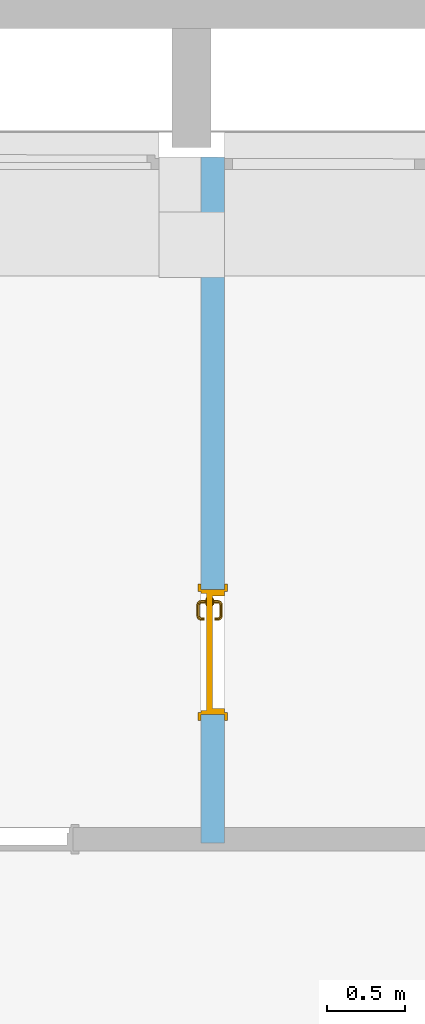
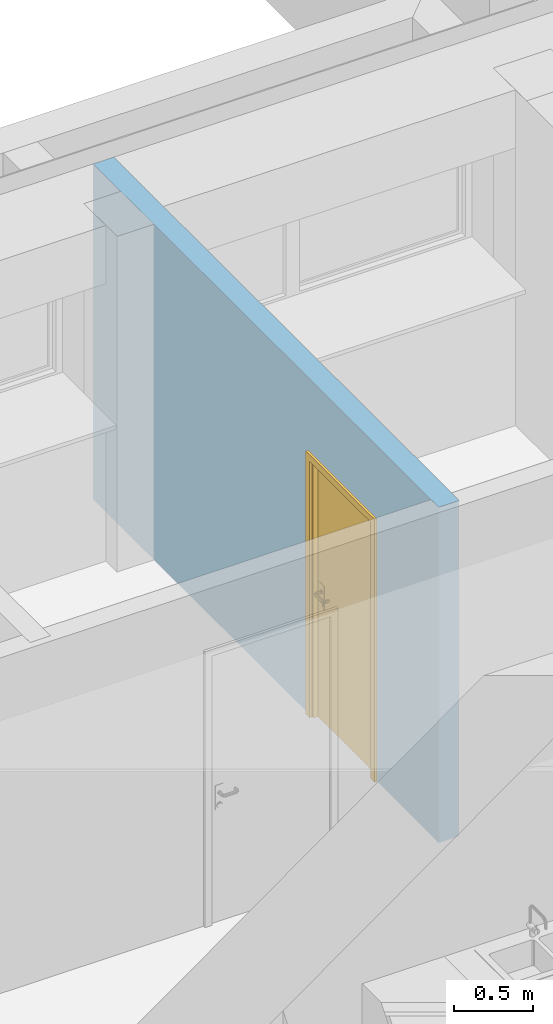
# One storey, part 45 of 127: 1 door, 1 opening, plus 1 element that does not belong to this part.
"""IFC2X3 building model written with IfcOpenShell, lengths in millimetres."""

from ifc_helpers import new_model, entity, si_unit, converted_unit, derived_unit, money_unit, direction, frame, origin_with_axes, origin_2d_with_axis, place, context, subcontext, project, spatial, polyline, rectangle, outline, extrude, open_shell, faceted_brep, surface_model, material, layer, layer_set, layer_usage, type_object, element, fill, save


model = new_model("IFC2X3")

# Units and contexts
model_context = context("Model", 3, precision=1e-05, world=origin_with_axes(), true_north=direction((0.0, 1.0)))
body_context = subcontext(model_context, "Body", "Model", "MODEL_VIEW")
ifc_project = project(units=[si_unit("LENGTHUNIT", "METRE", prefix="MILLI"), si_unit("AREAUNIT", "SQUARE_METRE"), si_unit("VOLUMEUNIT", "CUBIC_METRE"), converted_unit("PLANEANGLEUNIT", "DEGREE", entity("IfcPlaneAngleMeasure", 0.0174532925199), si_unit("PLANEANGLEUNIT", "RADIAN"), dimensions=[0, 0, 0, 0, 0, 0, 0]), si_unit("SOLIDANGLEUNIT", "STERADIAN"), money_unit("EUR"), converted_unit("TIMEUNIT", "Year", entity("IfcTimeMeasure", 31556926.0), si_unit("TIMEUNIT", "SECOND"), dimensions=[0, 0, 1, 0, 0, 0, 0]), si_unit("MASSUNIT", "GRAM", prefix="KILO"), si_unit("THERMODYNAMICTEMPERATUREUNIT", "DEGREE_CELSIUS"), si_unit("LUMINOUSINTENSITYUNIT", "LUMEN"), si_unit("ENERGYUNIT", "JOULE", prefix="MEGA"), derived_unit("THERMALCONDUCTANCEUNIT", [(si_unit("POWERUNIT", "WATT"), 1), (si_unit("LENGTHUNIT", "METRE"), -1), (si_unit("THERMODYNAMICTEMPERATUREUNIT", "KELVIN"), -1)]), derived_unit("SPECIFICHEATCAPACITYUNIT", [(si_unit("ENERGYUNIT", "JOULE"), 1), (si_unit("MASSUNIT", "GRAM", prefix="KILO"), -1), (si_unit("THERMODYNAMICTEMPERATUREUNIT", "KELVIN"), -1)]), derived_unit("MASSDENSITYUNIT", [(si_unit("MASSUNIT", "GRAM", prefix="KILO"), 1), (si_unit("VOLUMEUNIT", "CUBIC_METRE"), -1)])], contexts=[model_context])

# Site, building, storey
site_placement = place(None, origin_with_axes())
site = spatial("IfcSite", under=ifc_project, at=site_placement, Name="Site", CompositionType="ELEMENT")
building_placement = place(site_placement, origin_with_axes())
building = spatial("IfcBuilding", under=site, at=building_placement, Name="Building", CompositionType="ELEMENT")
storey_placement = place(building_placement, origin_with_axes())
storey = spatial("IfcBuildingStorey", under=building, at=storey_placement, Name="1 KORRUS", CompositionType="ELEMENT", Elevation=0.0)

# Wall, opening, door
ifc_material = material(Name="Kivi -Ol.Olev Konstruktsioon")
ifc_layer = layer(ifc_material, 150.0, ventilated="UNKNOWN")
ifc_layer_set = layer_set([ifc_layer], Name="ol.olev ss 150")
ifc_layer_usage = layer_usage(ifc_layer_set, "AXIS2", "NEGATIVE", 0.0)
wall_type = type_object("IfcWallType", Name="SW - 036", PredefinedType="NOTDEFINED")
wall_placement = place(storey_placement, frame((58154.3292711, 47242.1726063, 0.0), z_axis=(0.0, 0.0, 1.0), x_axis=(0.0, -1.0, 0.0)))
wall = element("IfcWallStandardCase", 1, at=wall_placement, inside=storey, type_object=wall_type, material=ifc_layer_usage, Name="ol.olev ss 150", context=body_context, shape_type="SweptSolid", body=[
    extrude(outline(polyline([(0.0, -150.0), (4385.66053938, -150.0), (4385.66053938, 0.0), (0.0, 0.0), (0.0, -150.0)])), origin_with_axes(), (0.0, 0.0, 1.0), 2600.0),
])
opening_placement = place(wall_placement, frame((3165.65622186, 0.0, 0.0), z_axis=(0.0, 0.0, 1.0), x_axis=(1.0, 0.0, 0.0)))
opening = element("IfcOpeningElement", 2, at=opening_placement, cuts=wall, Name="Siseuks * Door 22", context=body_context, shape_type="SweptSolid", body=[
    extrude(rectangle(XDim=799.999999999, YDim=2000.0, at=origin_2d_with_axis()), frame((0.0, -150.0, 1000.0), z_axis=(0.0, -1.0, 0.0), x_axis=(1.0, 0.0, 0.0)), (0.0, 0.0, -1.0), 450.0),
    extrude(rectangle(XDim=874.0, YDim=2037.0, at=origin_2d_with_axis()), frame((0.0, -150.0, 1018.5), z_axis=(0.0, -1.0, 0.0), x_axis=(1.0, 0.0, 0.0)), (0.0, 0.0, 1.0), 150.0),
    extrude(rectangle(XDim=874.0, YDim=2037.0, at=origin_2d_with_axis()), frame((0.0, 0.0, 1018.5), z_axis=(0.0, 1.0, 0.0), x_axis=(1.0, 0.0, 0.0)), (0.0, 0.0, 1.0), 150.0),
])
door_style = type_object("IfcDoorStyle", Name="SU-B120A   800×2\xa0000", ConstructionType="NOTDEFINED", OperationType="SINGLE_SWING_LEFT", ParameterTakesPrecedence=False, Sizeable=False)
door_placement = place(opening_placement, frame((400.0, 0.0, 0.0), z_axis=(0.0, 0.0, 1.0), x_axis=(-1.0, 0.0, 0.0)))
door = element("IfcDoor", 3, at=door_placement, inside=storey, type_object=door_style, Name="Siseuks * Door 22", OverallHeight=2000.0, OverallWidth=800.0, context=body_context, shape_type="SurfaceModel", body=[
    faceted_brep([(799.999999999, 115.0, 0.0), (775.0, 115.0, 0.0), (775.0, 150.0, 0.0), (799.999999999, 150.0, 0.0), (799.999999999, 115.0, 2000.0), (775.0, 115.0, 1975.0), (775.0, 150.0, 1975.0), (799.999999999, 150.0, 2000.0)], [[[0, 1, 2, 3]], [[0, 4, 5, 1]], [[1, 5, 6, 2]], [[3, 2, 6, 7]], [[4, 0, 3, 7]], [[5, 4, 7, 6]]]),
    faceted_brep([(0.0, 115.0, 2000.0), (24.9999999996, 115.0, 1975.0), (24.9999999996, 150.0, 1975.0), (0.0, 150.0, 2000.0), (0.0, 115.0, 0.0), (24.9999999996, 115.0, 0.0), (24.9999999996, 150.0, 0.0), (0.0, 150.0, 0.0)], [[[0, 1, 2, 3]], [[0, 4, 5, 1]], [[1, 5, 6, 2]], [[3, 2, 6, 7]], [[4, 0, 3, 7]], [[5, 4, 7, 6]]]),
    faceted_brep([(775.0, 115.0, 1975.0), (24.9999999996, 115.0, 1975.0), (24.9999999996, 150.0, 1975.0), (775.0, 150.0, 1975.0), (799.999999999, 115.0, 2000.0), (0.0, 115.0, 2000.0), (0.0, 150.0, 2000.0), (799.999999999, 150.0, 2000.0)], [[[0, 1, 2, 3]], [[0, 4, 5, 1]], [[1, 5, 6, 2]], [[3, 2, 6, 7]], [[4, 0, 3, 7]], [[5, 4, 7, 6]]]),
    faceted_brep([(837.0, 169.0, 0.0), (837.0, 150.0, 0.0), (786.999999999, 150.0, 0.0), (786.999999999, 169.0, 0.0), (837.0, 169.0, 2037.0), (837.0, 150.0, 2037.0), (786.999999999, 150.0, 1987.0), (786.999999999, 169.0, 1987.0)], [[[0, 1, 2, 3]], [[4, 5, 1, 0]], [[1, 5, 6, 2]], [[3, 2, 6, 7]], [[0, 3, 7, 4]], [[7, 6, 5, 4]]]),
    faceted_brep([(-37.0000000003, 169.0, 2037.0), (-37.0000000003, 150.0, 2037.0), (12.9999999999, 150.0, 1987.0), (12.9999999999, 169.0, 1987.0), (-37.0000000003, 169.0, 0.0), (-37.0000000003, 150.0, 0.0), (12.9999999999, 150.0, 0.0), (12.9999999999, 169.0, 0.0)], [[[0, 1, 2, 3]], [[4, 5, 1, 0]], [[1, 5, 6, 2]], [[3, 2, 6, 7]], [[0, 3, 7, 4]], [[7, 6, 5, 4]]]),
    faceted_brep([(837.0, 169.0, 2037.0), (837.0, 150.0, 2037.0), (786.999999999, 150.0, 1987.0), (786.999999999, 169.0, 1987.0), (-37.0000000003, 169.0, 2037.0), (-37.0000000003, 150.0, 2037.0), (12.9999999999, 150.0, 1987.0), (12.9999999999, 169.0, 1987.0)], [[[0, 1, 2, 3]], [[4, 5, 1, 0]], [[1, 5, 6, 2]], [[3, 2, 6, 7]], [[0, 3, 7, 4]], [[7, 6, 5, 4]]]),
    faceted_brep([(837.0, -19.0, 0.0), (786.999999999, -19.0, 0.0), (786.999999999, 0.0, 0.0), (837.0, 0.0, 0.0), (837.0, -19.0, 2037.0), (786.999999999, -19.0, 1987.0), (786.999999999, 0.0, 1987.0), (837.0, 0.0, 2037.0)], [[[0, 1, 2, 3]], [[0, 4, 5, 1]], [[1, 5, 6, 2]], [[3, 2, 6, 7]], [[4, 0, 3, 7]], [[5, 4, 7, 6]]]),
    faceted_brep([(-37.0000000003, -19.0, 2037.0), (12.9999999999, -19.0, 1987.0), (12.9999999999, 0.0, 1987.0), (-37.0000000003, 0.0, 2037.0), (-37.0000000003, -19.0, 0.0), (12.9999999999, -19.0, 0.0), (12.9999999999, 0.0, 0.0), (-37.0000000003, 0.0, 0.0)], [[[0, 1, 2, 3]], [[0, 4, 5, 1]], [[1, 5, 6, 2]], [[3, 2, 6, 7]], [[4, 0, 3, 7]], [[5, 4, 7, 6]]]),
    faceted_brep([(837.0, -19.0, 2037.0), (786.999999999, -19.0, 1987.0), (786.999999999, 0.0, 1987.0), (837.0, 0.0, 2037.0), (-37.0000000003, -19.0, 2037.0), (12.9999999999, -19.0, 1987.0), (12.9999999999, 0.0, 1987.0), (-37.0000000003, 0.0, 2037.0)], [[[0, 1, 2, 3]], [[0, 4, 5, 1]], [[1, 5, 6, 2]], [[3, 2, 6, 7]], [[4, 0, 3, 7]], [[5, 4, 7, 6]]]),
    faceted_brep([(759.999999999, 75.0, 0.0), (759.999999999, 0.0, 0.0), (759.999999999, 0.0, 1960.0), (759.999999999, 75.0, 1960.0), (772.0, 75.0, 0.0), (772.0, 115.0, 0.0), (799.999999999, 115.0, 0.0), (799.999999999, 0.0, 0.0), (799.999999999, 0.0, 1960.0), (772.0, 75.0, 1960.0), (799.999999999, 115.0, 1960.0), (772.0, 115.0, 1960.0)], [[[0, 1, 2, 3]], [[4, 5, 6, 7, 1, 0]], [[1, 7, 8, 2]], [[9, 3, 2, 8, 10, 11]], [[9, 4, 0, 3]], [[11, 5, 4, 9]], [[11, 10, 6, 5]], [[6, 10, 8, 7]]]),
    faceted_brep([(27.9999999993, 75.0, 1960.0), (27.9999999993, 115.0, 1960.0), (0.0, 115.0, 1960.0), (0.0, 0.0, 1960.0), (40.0, 0.0, 1960.0), (40.0, 75.0, 1960.0), (27.9999999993, 75.0, 0.0), (27.9999999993, 115.0, 0.0), (0.0, 115.0, 0.0), (0.0, 0.0, 0.0), (40.0, 0.0, 0.0), (40.0, 75.0, 0.0)], [[[0, 1, 2, 3, 4, 5]], [[0, 6, 7, 1]], [[7, 8, 2, 1]], [[2, 8, 9, 3]], [[3, 9, 10, 4]], [[5, 4, 10, 11]], [[5, 11, 6, 0]], [[6, 11, 10, 9, 8, 7]]]),
    faceted_brep([(772.0, 115.0, 1972.0), (27.9999999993, 115.0, 1972.0), (27.9999999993, 115.0, 1960.0), (0.0, 115.0, 1960.0), (0.0, 115.0, 2000.0), (799.999999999, 115.0, 2000.0), (799.999999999, 115.0, 1960.0), (772.0, 115.0, 1960.0), (772.0, 75.0, 1972.0), (27.9999999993, 75.0, 1972.0), (27.9999999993, 75.0, 1960.0), (40.0, 75.0, 1960.0), (40.0, 0.0, 1960.0), (0.0, 0.0, 1960.0), (0.0, 0.0, 2000.0), (799.999999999, 0.0, 2000.0), (799.999999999, 0.0, 1960.0), (772.0, 75.0, 1960.0), (759.999999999, 0.0, 1960.0), (759.999999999, 75.0, 1960.0)], [[[0, 1, 2, 3, 4, 5, 6, 7]], [[0, 8, 9, 1]], [[1, 9, 10, 2]], [[10, 11, 12, 13, 3, 2]], [[4, 3, 13, 14]], [[5, 4, 14, 15]], [[6, 5, 15, 16]], [[17, 7, 6, 16, 18, 19]], [[7, 17, 8, 0]], [[10, 9, 8, 17, 19, 11]], [[19, 18, 12, 11]], [[12, 18, 16, 15, 14, 13]]]),
    faceted_brep([(750.499999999, 75.0, 1060.0), (693.499999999, 75.0, 1060.0), (693.499999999, 72.0, 1060.0), (750.499999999, 72.0, 1060.0), (750.499999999, 75.0, 870.0), (693.499999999, 75.0, 870.0), (693.499999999, 72.0, 870.0), (750.499999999, 72.0, 870.0)], [[[0, 1, 2, 3]], [[0, 4, 5, 1]], [[1, 5, 6, 2]], [[3, 2, 6, 7]], [[4, 0, 3, 7]], [[5, 4, 7, 6]]]),
    surface_model("IfcShellBasedSurfaceModel", [(712.0, 62.0, 1000.0), (714.928932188, 62.0, 992.928932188), (714.928932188, 42.696439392, 992.928932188), (712.0, 42.9849140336, 1000.0), (722.0, 62.0, 990.0), (722.0, 42.0, 990.0), (713.816790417, 37.1053251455, 992.928932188), (711.057796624, 38.2481377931, 1000.0), (714.928932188, 62.0, 1007.07106781), (714.928932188, 42.696439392, 1007.07106781), (729.071067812, 62.0, 992.928932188), (729.071067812, 41.303560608, 992.928932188), (720.47759065, 34.3463313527, 990.0), (711.044179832, 32.9558201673, 992.928932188), (708.932537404, 35.0674625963, 1000.0), (713.816790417, 37.1053251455, 1007.07106781), (722.0, 62.0, 1010.0), (722.0, 42.0, 1010.0), (732.0, 62.0, 1000.0), (732.0, 41.0150859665, 1000.0), (727.138390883, 31.5873375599, 992.928932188), (716.142135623, 27.8578643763, 990.0), (706.894674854, 30.1832095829, 992.928932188), (705.751862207, 32.9422033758, 1000.0), (711.044179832, 32.9558201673, 1007.07106781), (720.47759065, 34.3463313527, 1010.0), (729.071067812, 62.0, 1007.07106781), (729.071067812, 41.303560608, 1007.07106781), (729.897384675, 30.4445249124, 1000.0), (721.240091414, 22.7599085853, 992.928932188), (709.653668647, 23.5224093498, 990.0), (701.303560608, 29.0710678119, 992.928932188), (701.015085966, 32.0, 1000.0), (706.894674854, 30.1832095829, 1007.07106781), (716.142135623, 27.8578643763, 1010.0), (727.138390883, 31.5873375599, 1007.07106781), (723.351733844, 20.6482661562, 1000.0), (712.412662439, 16.8616091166, 992.928932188), (701.999999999, 22.0, 990.0), (632.696439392, 29.0710678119, 992.928932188), (632.984914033, 32.0, 1000.0), (701.303560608, 29.0710678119, 1007.07106781), (709.653668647, 23.5224093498, 1010.0), (721.240091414, 22.7599085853, 1007.07106781), (713.555475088, 14.1026153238, 1000.0), (702.696439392, 14.9289321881, 992.928932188), (632.0, 22.0, 990.0), (627.105325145, 30.1832095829, 992.928932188), (628.248137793, 32.9422033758, 1000.0), (632.696439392, 29.0710678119, 1007.07106781), (701.999999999, 22.0, 1010.0), (712.412662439, 16.8616091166, 1007.07106781), (702.984914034, 12.0000000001, 1000.0), (631.303560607, 14.9289321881, 992.928932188), (624.346331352, 23.5224093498, 990.0), (622.955820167, 32.9558201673, 992.928932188), (625.067462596, 35.0674625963, 1000.0), (627.105325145, 30.1832095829, 1007.07106781), (632.0, 22.0, 1010.0), (702.696439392, 14.9289321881, 1007.07106781), (631.015085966, 12.0000000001, 1000.0), (621.58733756, 16.8616091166, 992.928932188), (617.857864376, 27.8578643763, 990.0), (620.183209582, 37.1053251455, 992.928932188), (622.942203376, 38.2481377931, 1000.0), (622.955820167, 32.9558201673, 1007.07106781), (624.346331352, 23.5224093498, 1010.0), (631.303560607, 14.9289321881, 1007.07106781), (620.444524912, 14.1026153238, 1000.0), (612.759908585, 22.7599085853, 992.928932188), (613.52240935, 34.3463313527, 990.0), (619.071067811, 42.696439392, 992.928932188), (621.999999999, 42.9849140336, 1000.0), (620.183209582, 37.1053251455, 1007.07106781), (617.857864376, 27.8578643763, 1010.0), (621.58733756, 16.8616091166, 1007.07106781), (610.648266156, 20.6482661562, 1000.0), (606.861609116, 31.5873375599, 992.928932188), (612.0, 42.0, 990.0), (619.071067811, 62.0, 992.928932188), (621.999999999, 62.0, 1000.0), (619.071067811, 42.696439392, 1007.07106781), (613.52240935, 34.3463313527, 1010.0), (612.759908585, 22.7599085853, 1007.07106781), (604.102615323, 30.4445249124, 1000.0), (604.928932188, 41.303560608, 992.928932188), (612.0, 62.0, 990.0), (604.928932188, 62.0, 992.928932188), (602.0, 62.0, 1000.0), (604.928932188, 62.0, 1007.07106781), (612.0, 62.0, 1010.0), (619.071067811, 62.0, 1007.07106781), (612.0, 42.0, 1010.0), (606.861609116, 31.5873375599, 1007.07106781), (602.0, 41.0150859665, 1000.0), (604.928932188, 41.303560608, 1007.07106781)], [open_shell([[[0, 1, 2, 3]], [[1, 4, 5, 2]], [[3, 2, 6, 7]], [[8, 0, 3, 9]], [[4, 10, 11, 5]], [[2, 5, 12, 6]], [[7, 6, 13, 14]], [[9, 3, 7, 15]], [[16, 8, 9, 17]], [[10, 18, 19, 11]], [[5, 11, 20, 12]], [[6, 12, 21, 13]], [[14, 13, 22, 23]], [[15, 7, 14, 24]], [[17, 9, 15, 25]], [[26, 16, 17, 27]], [[18, 26, 27, 19]], [[11, 19, 28, 20]], [[12, 20, 29, 21]], [[13, 21, 30, 22]], [[23, 22, 31, 32]], [[24, 14, 23, 33]], [[25, 15, 24, 34]], [[27, 17, 25, 35]], [[19, 27, 35, 28]], [[20, 28, 36, 29]], [[21, 29, 37, 30]], [[22, 30, 38, 31]], [[32, 31, 39, 40]], [[33, 23, 32, 41]], [[34, 24, 33, 42]], [[35, 25, 34, 43]], [[28, 35, 43, 36]], [[29, 36, 44, 37]], [[30, 37, 45, 38]], [[31, 38, 46, 39]], [[40, 39, 47, 48]], [[41, 32, 40, 49]], [[42, 33, 41, 50]], [[43, 34, 42, 51]], [[36, 43, 51, 44]], [[37, 44, 52, 45]], [[38, 45, 53, 46]], [[39, 46, 54, 47]], [[48, 47, 55, 56]], [[49, 40, 48, 57]], [[50, 41, 49, 58]], [[51, 42, 50, 59]], [[44, 51, 59, 52]], [[45, 52, 60, 53]], [[46, 53, 61, 54]], [[47, 54, 62, 55]], [[56, 55, 63, 64]], [[57, 48, 56, 65]], [[58, 49, 57, 66]], [[59, 50, 58, 67]], [[52, 59, 67, 60]], [[53, 60, 68, 61]], [[54, 61, 69, 62]], [[55, 62, 70, 63]], [[64, 63, 71, 72]], [[65, 56, 64, 73]], [[66, 57, 65, 74]], [[67, 58, 66, 75]], [[60, 67, 75, 68]], [[61, 68, 76, 69]], [[62, 69, 77, 70]], [[63, 70, 78, 71]], [[72, 71, 79, 80]], [[73, 64, 72, 81]], [[74, 65, 73, 82]], [[75, 66, 74, 83]], [[68, 75, 83, 76]], [[69, 76, 84, 77]], [[70, 77, 85, 78]], [[71, 78, 86, 79]], [[80, 79, 86, 87, 88, 89, 90, 91]], [[81, 72, 80, 91]], [[82, 73, 81, 92]], [[83, 74, 82, 93]], [[76, 83, 93, 84]], [[77, 84, 94, 85]], [[78, 85, 87, 86]], [[85, 94, 88, 87]], [[94, 95, 89, 88]], [[95, 92, 90, 89]], [[92, 81, 91, 90]], [[93, 82, 92, 95]], [[84, 93, 95, 94]]])]),
    faceted_brep([(711.607695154, 62.0, 994.0), (710.0, 62.0, 1000.0), (709.0, 72.0, 1000.0), (710.741669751, 72.0, 993.5), (715.999999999, 62.0, 989.607695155), (722.0, 62.0, 988.0), (728.0, 62.0, 989.607695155), (732.392304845, 62.0, 994.0), (733.999999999, 62.0, 1000.0), (732.392304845, 62.0, 1006.0), (728.0, 62.0, 1010.39230485), (722.0, 62.0, 1012.0), (715.999999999, 62.0, 1010.39230485), (711.607695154, 62.0, 1006.0), (710.741669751, 72.0, 1006.5), (715.499999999, 72.0, 1011.25833025), (722.0, 72.0, 1013.0), (728.499999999, 72.0, 1011.25833025), (733.258330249, 72.0, 1006.5), (735.0, 72.0, 1000.0), (733.258330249, 72.0, 993.5), (728.499999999, 72.0, 988.741669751), (722.0, 72.0, 987.0), (715.499999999, 72.0, 988.741669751)], [[[0, 1, 2, 3]], [[1, 0, 4, 5, 6, 7, 8, 9, 10, 11, 12, 13]], [[1, 13, 14, 2]], [[2, 14, 15, 16, 17, 18, 19, 20, 21, 22, 23, 3]], [[4, 0, 3, 23]], [[5, 4, 23, 22]], [[6, 5, 22, 21]], [[7, 6, 21, 20]], [[8, 7, 20, 19]], [[9, 8, 19, 18]], [[10, 9, 18, 17]], [[11, 10, 17, 16]], [[12, 11, 16, 15]], [[13, 12, 15, 14]]]),
    faceted_brep([(704.679491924, 68.0, 895.0), (701.999999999, 68.0, 905.0), (700.0, 72.0, 905.0), (702.947441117, 72.0, 894.0), (712.0, 68.0, 887.679491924), (722.0, 68.0, 885.0), (732.0, 68.0, 887.679491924), (739.320508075, 68.0, 895.0), (741.999999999, 68.0, 905.0), (739.320508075, 68.0, 915.0), (732.0, 68.0, 922.320508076), (722.0, 68.0, 925.0), (712.0, 68.0, 922.320508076), (704.679491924, 68.0, 915.0), (702.947441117, 72.0, 916.0), (710.999999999, 72.0, 924.052558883), (722.0, 72.0, 927.0), (732.999999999, 72.0, 924.052558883), (741.052558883, 72.0, 916.0), (744.0, 72.0, 905.0), (741.052558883, 72.0, 894.0), (732.999999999, 72.0, 885.947441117), (722.0, 72.0, 883.0), (710.999999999, 72.0, 885.947441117)], [[[0, 1, 2, 3]], [[1, 0, 4, 5, 6, 7, 8, 9, 10, 11, 12, 13]], [[1, 13, 14, 2]], [[2, 14, 15, 16, 17, 18, 19, 20, 21, 22, 23, 3]], [[4, 0, 3, 23]], [[5, 4, 23, 22]], [[6, 5, 22, 21]], [[7, 6, 21, 20]], [[8, 7, 20, 19]], [[9, 8, 19, 18]], [[10, 9, 18, 17]], [[11, 10, 17, 16]], [[12, 11, 16, 15]], [[13, 12, 15, 14]]]),
    faceted_brep([(717.050252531, 66.0, 909.050252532), (714.999999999, 66.0, 914.0), (714.0, 68.0, 914.0), (716.34314575, 68.0, 908.343145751), (722.0, 66.0, 907.0), (726.949747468, 66.0, 909.050252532), (728.999999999, 66.0, 914.0), (726.949747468, 66.0, 918.949747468), (722.0, 66.0, 921.0), (717.050252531, 66.0, 918.949747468), (716.34314575, 68.0, 919.656854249), (722.0, 68.0, 922.0), (727.656854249, 68.0, 919.656854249), (730.0, 68.0, 914.0), (727.656854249, 68.0, 908.343145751), (722.0, 68.0, 906.0)], [[[0, 1, 2, 3]], [[1, 0, 4, 5, 6, 7, 8, 9]], [[1, 9, 10, 2]], [[2, 10, 11, 12, 13, 14, 15, 3]], [[4, 0, 3, 15]], [[5, 4, 15, 14]], [[6, 5, 14, 13]], [[7, 6, 13, 12]], [[8, 7, 12, 11]], [[9, 8, 11, 10]]]),
    faceted_brep([(750.499999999, 115.0, 1060.0), (750.499999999, 118.0, 1060.0), (693.499999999, 118.0, 1060.0), (693.499999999, 115.0, 1060.0), (750.499999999, 115.0, 870.0), (750.499999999, 118.0, 870.0), (693.499999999, 118.0, 870.0), (693.499999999, 115.0, 870.0)], [[[0, 1, 2, 3]], [[4, 5, 1, 0]], [[1, 5, 6, 2]], [[3, 2, 6, 7]], [[0, 3, 7, 4]], [[7, 6, 5, 4]]]),
    surface_model("IfcShellBasedSurfaceModel", [(712.0, 128.0, 1000.0), (712.0, 147.015085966, 1000.0), (714.928932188, 147.303560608, 992.928932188), (714.928932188, 128.0, 992.928932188), (714.928932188, 128.0, 1007.07106781), (714.928932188, 147.303560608, 1007.07106781), (711.057796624, 151.751862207, 1000.0), (713.816790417, 152.894674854, 992.928932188), (722.0, 148.0, 990.0), (722.0, 128.0, 990.0), (722.0, 128.0, 1010.0), (722.0, 148.0, 1010.0), (713.816790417, 152.894674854, 1007.07106781), (708.932537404, 154.932537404, 1000.0), (711.044179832, 157.044179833, 992.928932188), (720.47759065, 155.653668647, 990.0), (729.071067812, 148.696439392, 992.928932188), (729.071067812, 128.0, 992.928932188), (729.071067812, 128.0, 1007.07106781), (729.071067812, 148.696439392, 1007.07106781), (720.47759065, 155.653668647, 1010.0), (711.044179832, 157.044179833, 1007.07106781), (705.751862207, 157.057796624, 1000.0), (706.894674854, 159.816790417, 992.928932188), (716.142135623, 162.142135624, 990.0), (727.138390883, 158.41266244, 992.928932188), (732.0, 148.984914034, 1000.0), (732.0, 128.0, 1000.0), (727.138390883, 158.41266244, 1007.07106781), (716.142135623, 162.142135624, 1010.0), (706.894674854, 159.816790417, 1007.07106781), (701.015085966, 158.0, 1000.0), (701.303560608, 160.928932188, 992.928932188), (709.653668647, 166.47759065, 990.0), (721.240091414, 167.240091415, 992.928932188), (729.897384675, 159.555475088, 1000.0), (721.240091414, 167.240091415, 1007.07106781), (709.653668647, 166.47759065, 1010.0), (701.303560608, 160.928932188, 1007.07106781), (632.984914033, 158.0, 1000.0), (632.696439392, 160.928932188, 992.928932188), (701.999999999, 168.0, 990.0), (712.412662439, 173.138390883, 992.928932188), (723.351733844, 169.351733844, 1000.0), (712.412662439, 173.138390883, 1007.07106781), (701.999999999, 168.0, 1010.0), (632.696439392, 160.928932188, 1007.07106781), (628.248137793, 157.057796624, 1000.0), (627.105325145, 159.816790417, 992.928932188), (632.0, 168.0, 990.0), (702.696439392, 175.071067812, 992.928932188), (713.555475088, 175.897384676, 1000.0), (702.696439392, 175.071067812, 1007.07106781), (632.0, 168.0, 1010.0), (627.105325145, 159.816790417, 1007.07106781), (625.067462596, 154.932537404, 1000.0), (622.955820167, 157.044179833, 992.928932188), (624.346331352, 166.47759065, 990.0), (631.303560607, 175.071067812, 992.928932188), (702.984914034, 178.0, 1000.0), (631.303560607, 175.071067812, 1007.07106781), (624.346331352, 166.47759065, 1010.0), (622.955820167, 157.044179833, 1007.07106781), (622.942203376, 151.751862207, 1000.0), (620.183209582, 152.894674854, 992.928932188), (617.857864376, 162.142135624, 990.0), (621.58733756, 173.138390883, 992.928932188), (631.015085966, 178.0, 1000.0), (621.58733756, 173.138390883, 1007.07106781), (617.857864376, 162.142135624, 1010.0), (620.183209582, 152.894674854, 1007.07106781), (621.999999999, 147.015085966, 1000.0), (619.071067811, 147.303560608, 992.928932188), (613.52240935, 155.653668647, 990.0), (612.759908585, 167.240091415, 992.928932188), (620.444524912, 175.897384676, 1000.0), (612.759908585, 167.240091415, 1007.07106781), (613.52240935, 155.653668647, 1010.0), (619.071067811, 147.303560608, 1007.07106781), (621.999999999, 128.0, 1000.0), (619.071067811, 128.0, 992.928932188), (612.0, 148.0, 990.0), (606.861609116, 158.41266244, 992.928932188), (610.648266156, 169.351733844, 1000.0), (606.861609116, 158.41266244, 1007.07106781), (612.0, 148.0, 1010.0), (619.071067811, 128.0, 1007.07106781), (612.0, 128.0, 1010.0), (604.928932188, 128.0, 1007.07106781), (602.0, 128.0, 1000.0), (604.928932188, 128.0, 992.928932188), (612.0, 128.0, 990.0), (604.928932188, 148.696439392, 992.928932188), (604.102615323, 159.555475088, 1000.0), (604.928932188, 148.696439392, 1007.07106781), (602.0, 148.984914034, 1000.0)], [open_shell([[[0, 1, 2, 3]], [[4, 5, 1, 0]], [[1, 6, 7, 2]], [[3, 2, 8, 9]], [[10, 11, 5, 4]], [[5, 12, 6, 1]], [[6, 13, 14, 7]], [[2, 7, 15, 8]], [[9, 8, 16, 17]], [[18, 19, 11, 10]], [[11, 20, 12, 5]], [[12, 21, 13, 6]], [[13, 22, 23, 14]], [[7, 14, 24, 15]], [[8, 15, 25, 16]], [[17, 16, 26, 27]], [[27, 26, 19, 18]], [[19, 28, 20, 11]], [[20, 29, 21, 12]], [[21, 30, 22, 13]], [[22, 31, 32, 23]], [[14, 23, 33, 24]], [[15, 24, 34, 25]], [[16, 25, 35, 26]], [[26, 35, 28, 19]], [[28, 36, 29, 20]], [[29, 37, 30, 21]], [[30, 38, 31, 22]], [[31, 39, 40, 32]], [[23, 32, 41, 33]], [[24, 33, 42, 34]], [[25, 34, 43, 35]], [[35, 43, 36, 28]], [[36, 44, 37, 29]], [[37, 45, 38, 30]], [[38, 46, 39, 31]], [[39, 47, 48, 40]], [[32, 40, 49, 41]], [[33, 41, 50, 42]], [[34, 42, 51, 43]], [[43, 51, 44, 36]], [[44, 52, 45, 37]], [[45, 53, 46, 38]], [[46, 54, 47, 39]], [[47, 55, 56, 48]], [[40, 48, 57, 49]], [[41, 49, 58, 50]], [[42, 50, 59, 51]], [[51, 59, 52, 44]], [[52, 60, 53, 45]], [[53, 61, 54, 46]], [[54, 62, 55, 47]], [[55, 63, 64, 56]], [[48, 56, 65, 57]], [[49, 57, 66, 58]], [[50, 58, 67, 59]], [[59, 67, 60, 52]], [[60, 68, 61, 53]], [[61, 69, 62, 54]], [[62, 70, 63, 55]], [[63, 71, 72, 64]], [[56, 64, 73, 65]], [[57, 65, 74, 66]], [[58, 66, 75, 67]], [[67, 75, 68, 60]], [[68, 76, 69, 61]], [[69, 77, 70, 62]], [[70, 78, 71, 63]], [[71, 79, 80, 72]], [[64, 72, 81, 73]], [[65, 73, 82, 74]], [[66, 74, 83, 75]], [[75, 83, 76, 68]], [[76, 84, 77, 69]], [[77, 85, 78, 70]], [[78, 86, 79, 71]], [[79, 86, 87, 88, 89, 90, 91, 80]], [[72, 80, 91, 81]], [[73, 81, 92, 82]], [[74, 82, 93, 83]], [[83, 93, 84, 76]], [[84, 94, 85, 77]], [[85, 87, 86, 78]], [[94, 88, 87, 85]], [[95, 89, 88, 94]], [[92, 90, 89, 95]], [[81, 91, 90, 92]], [[82, 92, 95, 93]], [[93, 95, 94, 84]]])]),
    faceted_brep([(711.607695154, 128.0, 994.0), (710.741669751, 118.0, 993.5), (709.0, 118.0, 1000.0), (710.0, 128.0, 1000.0), (715.999999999, 128.0, 989.607695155), (715.499999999, 118.0, 988.741669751), (722.0, 118.0, 987.0), (728.499999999, 118.0, 988.741669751), (733.258330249, 118.0, 993.5), (735.0, 118.0, 1000.0), (733.258330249, 118.0, 1006.5), (728.499999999, 118.0, 1011.25833025), (722.0, 118.0, 1013.0), (715.499999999, 118.0, 1011.25833025), (710.741669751, 118.0, 1006.5), (711.607695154, 128.0, 1006.0), (715.999999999, 128.0, 1010.39230485), (722.0, 128.0, 1012.0), (728.0, 128.0, 1010.39230485), (732.392304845, 128.0, 1006.0), (733.999999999, 128.0, 1000.0), (732.392304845, 128.0, 994.0), (728.0, 128.0, 989.607695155), (722.0, 128.0, 988.0)], [[[0, 1, 2, 3]], [[4, 5, 1, 0]], [[2, 1, 5, 6, 7, 8, 9, 10, 11, 12, 13, 14]], [[3, 2, 14, 15]], [[3, 15, 16, 17, 18, 19, 20, 21, 22, 23, 4, 0]], [[23, 6, 5, 4]], [[22, 7, 6, 23]], [[21, 8, 7, 22]], [[20, 9, 8, 21]], [[19, 10, 9, 20]], [[18, 11, 10, 19]], [[17, 12, 11, 18]], [[16, 13, 12, 17]], [[15, 14, 13, 16]]]),
    faceted_brep([(704.679491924, 122.0, 895.0), (702.947441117, 118.0, 894.0), (700.0, 118.0, 905.0), (701.999999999, 122.0, 905.0), (712.0, 122.0, 887.679491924), (710.999999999, 118.0, 885.947441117), (722.0, 118.0, 883.0), (732.999999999, 118.0, 885.947441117), (741.052558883, 118.0, 894.0), (744.0, 118.0, 905.0), (741.052558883, 118.0, 916.0), (732.999999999, 118.0, 924.052558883), (722.0, 118.0, 927.0), (710.999999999, 118.0, 924.052558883), (702.947441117, 118.0, 916.0), (704.679491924, 122.0, 915.0), (712.0, 122.0, 922.320508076), (722.0, 122.0, 925.0), (732.0, 122.0, 922.320508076), (739.320508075, 122.0, 915.0), (741.999999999, 122.0, 905.0), (739.320508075, 122.0, 895.0), (732.0, 122.0, 887.679491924), (722.0, 122.0, 885.0)], [[[0, 1, 2, 3]], [[4, 5, 1, 0]], [[2, 1, 5, 6, 7, 8, 9, 10, 11, 12, 13, 14]], [[3, 2, 14, 15]], [[3, 15, 16, 17, 18, 19, 20, 21, 22, 23, 4, 0]], [[23, 6, 5, 4]], [[22, 7, 6, 23]], [[21, 8, 7, 22]], [[20, 9, 8, 21]], [[19, 10, 9, 20]], [[18, 11, 10, 19]], [[17, 12, 11, 18]], [[16, 13, 12, 17]], [[15, 14, 13, 16]]]),
    faceted_brep([(717.050252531, 124.0, 909.050252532), (716.34314575, 122.0, 908.343145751), (714.0, 122.0, 914.0), (714.999999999, 124.0, 914.0), (722.0, 124.0, 907.0), (722.0, 122.0, 906.0), (727.656854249, 122.0, 908.343145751), (730.0, 122.0, 914.0), (727.656854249, 122.0, 919.656854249), (722.0, 122.0, 922.0), (716.34314575, 122.0, 919.656854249), (717.050252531, 124.0, 918.949747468), (722.0, 124.0, 921.0), (726.949747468, 124.0, 918.949747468), (728.999999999, 124.0, 914.0), (726.949747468, 124.0, 909.050252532)], [[[0, 1, 2, 3]], [[4, 5, 1, 0]], [[2, 1, 5, 6, 7, 8, 9, 10]], [[3, 2, 10, 11]], [[3, 11, 12, 13, 14, 15, 4, 0]], [[15, 6, 5, 4]], [[14, 7, 6, 15]], [[13, 8, 7, 14]], [[12, 9, 8, 13]], [[11, 10, 9, 12]]]),
    faceted_brep([(27.9999999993, 115.0, 0.0), (772.0, 115.0, 0.0), (772.0, 75.0, 0.0), (27.9999999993, 75.0, 0.0), (27.9999999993, 115.0, 1972.0), (772.0, 115.0, 1972.0), (772.0, 75.0, 1972.0), (27.9999999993, 75.0, 1972.0)], [[[0, 1, 2, 3]], [[0, 4, 5, 1]], [[1, 5, 6, 2]], [[3, 2, 6, 7]], [[4, 0, 3, 7]], [[5, 4, 7, 6]]]),
])
fill(opening, door)

save(model, "model.ifc")
